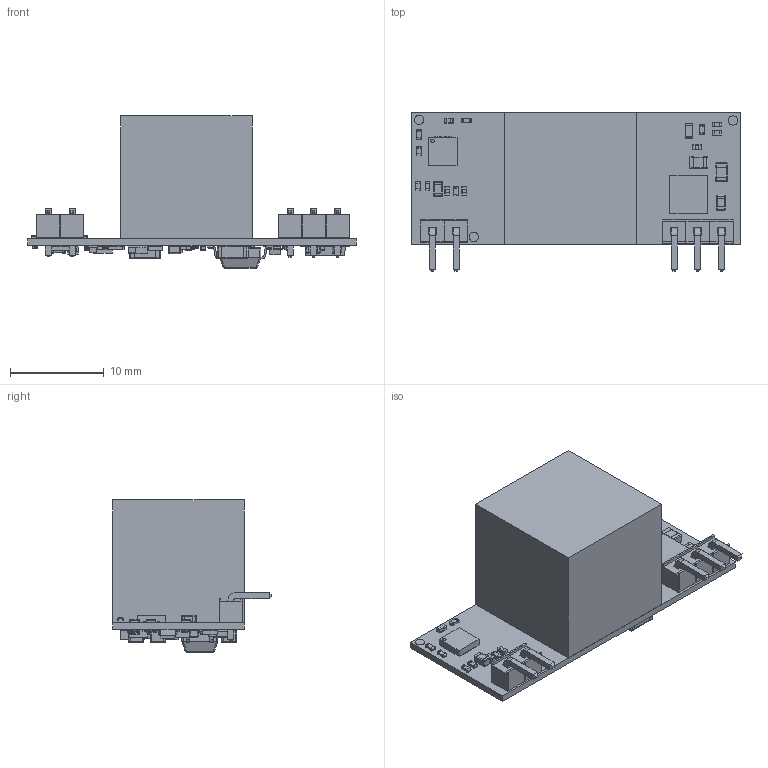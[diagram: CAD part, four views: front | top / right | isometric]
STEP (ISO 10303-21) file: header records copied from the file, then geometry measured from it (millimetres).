
FILE_DESCRIPTION(/* description */ ('PCB Design'),/* implementation_level */ '2;1');
FILE_NAME(/* name */ 'PEM1400AF_34',/* time_stamp */ '2025-08-19T15:56:39+05:00',/* author */ (''),/* organization */ (''),/* preprocessor_version */ 'ST-DEVELOPER v16',/* originating_system */ 'allegro_22.1S003',/* authorisation */ '');
FILE_SCHEMA (('AUTOMOTIVE_DESIGN { 1 0 10303 214 3 1 1 }'));
Length unit declared in the file: millimetre
Products named in the file (78): PEM1400AF_34; BOARD_OUTLINE; COMPONENTS; WE-LQS_4018; KS_TRS10_EF13; FIDUCIAL1; SODFL5026X125N; LTV-357T; SOD323HP_2P; SOD323_2P; SOD523; MCS_BERG_1X3; MCS_BERG_1X2; UDFN6B; RES2012X135N; KTB2140; SOT23_3; CAPC2012X135N; CAPC1005X55N; RES1608X90N; RES3216X180N; CAPC3216X180N; CAPC1608X90N; RES1005X55N; ASSEMBLY; Body; PinKIdent; PinK; PinA; LTV-356T; SOD323HP_PO; Sn-plating; Lead; mold-body; SOD323 Upper body; SOD323; SOD323 Lower body; SOD323 Lead; 1N4148WTH; P9102D02-E02-1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
Assembly tree (135 placements, depth 5):
  PEM1400AF_34
    BOARD_OUTLINE
    COMPONENTS
      WE-LQS_4018
      KS_TRS10_EF13
      FIDUCIAL1  x6
      SODFL5026X125N  x2
        ASSEMBLY
          Body
          PinKIdent
          PinK
          PinA
      LTV-357T
        LTV-356T
      SOD323HP_2P
        SOD323HP_PO
          Lead
          mold-body
          Sn-plating
      SOD323_2P
        SOD323
          SOD323 Lower body
          SOD323 Lead  x2
          SOD323 Upper body
      SOD523  x3
        1N4148WTH
      MCS_BERG_1X3
        P9102D02-E02-1
          0.64 pin  x3
          P9102D02-E02-1_1  x3
      MCS_BERG_1X2
        P9102D02-E02-1
          0.64 pin  x2
          P9102D02-E02-1_1  x2
      UDFN6B  x2
        DQK0006A_ASM
          FRAME
          MOLD
      RES2012X135N
        Document
      KTB2140
        ASSEMBLY
          Body
          ThermalPin
          PinsArrayLR
          PinsArrayTB
      SOT23_3
        DBZ0003A_ASM
          BODY-SOT
          LEAD-SOT  x3
          PIN1-ID
          TIEBAR
      CAPC2012X135N  x3
        ASSEMBLY
          Fillet1
          Fillet2
          body2
      CAPC1005X55N  x10
        ASSEMBLY
          Fillet1
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Bounding box: 35 x 16.91 x 16.21 mm (x, y, z)
Volume: 216.5 mm3; surface area: 3319.7 mm2
Topology: 271 solids, 280 shells, 2905 faces, 6498 edges, 3972 vertices
Faces by surface type: plane 1787, cylinder 580, bspline 354, sphere 184
Full cylindrical faces by diameter (mm): 0.375 x1
Entity records: 48867 total; most frequent: CARTESIAN_POINT 10569, DIRECTION 6011, ORIENTED_EDGE 5152, VECTOR 2896, LINE 2896, EDGE_CURVE 2585, PCURVE 2020, DEFINITIONAL_REPRESENTATION 2020
